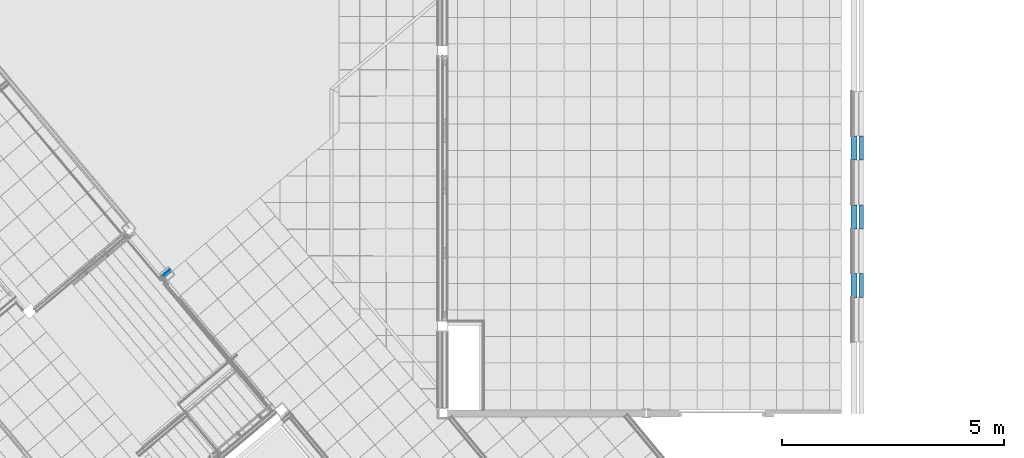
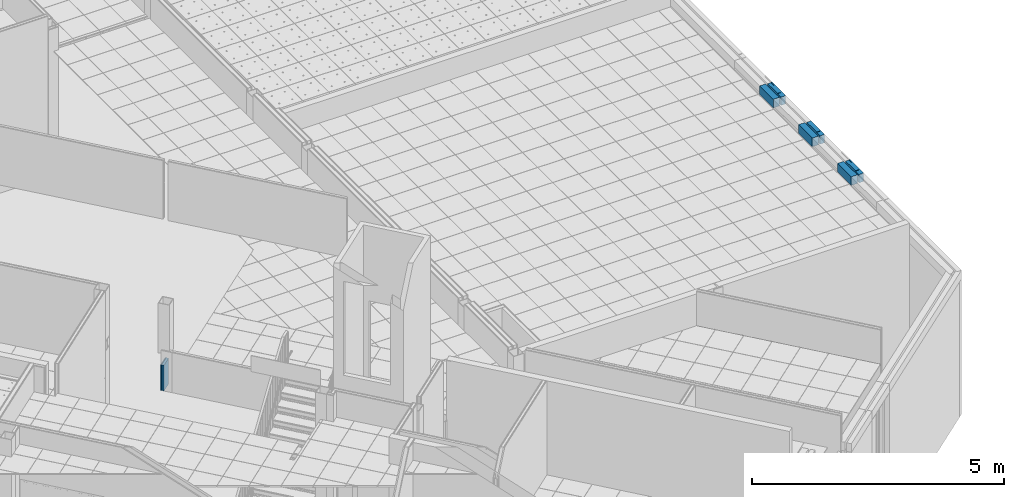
# One storey, part 114 of 338: 9 building element parts, 4 elements without a shape of their own.
"""IFC2X3 building model written with IfcOpenShell, lengths in millimetres."""

import ifcopenshell
import ifcopenshell.guid

model = None  # the IFC model being written
_history = None  # IfcOwnerHistory: only IFC2X3 demands one
_inside = {}  # id of a spatial element -> (the spatial element, [elements in it])
_under = {}  # id of a project, library or spatial element -> (it, [spatial elements below it])
_declared = {}  # id of a project -> (the project, [libraries it declares])
_typed = {}  # id of a type object -> (the type object, [elements of that type])
_made_of = {}  # id of a material, layer set ... -> (it, [elements and type objects made of it])


def new_model(schema):
    """Start an empty IFC model of exactly this schema.

    Asked for "IFC4X3", IfcOpenShell would pick the latest addendum, in which some entities
    have other attributes; the version numbers below select the first issue.
    IFC2X3 requires an IfcOwnerHistory on every rooted entity: one is made here for all.
    """
    global model, _history
    if schema == "IFC4X3":
        model = ifcopenshell.file(schema_version=(4, 3, 0, 0))
    else:
        model = ifcopenshell.file(schema=schema)
    _inside.clear()
    _under.clear()
    _declared.clear()
    _typed.clear()
    _made_of.clear()
    _history = None
    if model.schema == "IFC2X3":
        org = make("IfcOrganization", Name="unknown")
        user = make(
            "IfcPersonAndOrganization",
            ThePerson=make("IfcPerson", FamilyName="unknown"),
            TheOrganization=org,
        )
        app = make(
            "IfcApplication",
            ApplicationDeveloper=org,
            Version="unknown",
            ApplicationFullName="unknown",
            ApplicationIdentifier="unknown",
        )
        _history = make(
            "IfcOwnerHistory",
            OwningUser=user,
            OwningApplication=app,
            ChangeAction="ADDED",
            CreationDate=0,
        )
    return model


def make(cls, **values):
    """One entity of the class cls with the attributes given. An attribute that is None is left unset."""
    return model.create_entity(
        cls, **{name: value for name, value in values.items() if value is not None}
    )


def entity(cls, *values):
    """Any entity or typed value of the class cls, its attributes in the order of the schema. None: left unset."""
    e = model.create_entity(cls)
    for i, value in enumerate(values):
        if value is not None:
            e[i] = value
    return e


def rooted(cls, **values):
    """An entity with a GlobalId (a new one), such as an element, a storey or a relation."""
    return make(cls, GlobalId=ifcopenshell.guid.new(), OwnerHistory=_history, **values)


def si_unit(unit_type, name, prefix=None):
    """IfcSIUnit, for example si_unit("LENGTHUNIT", "METRE", prefix="MILLI")."""
    return make("IfcSIUnit", UnitType=unit_type, Prefix=prefix, Name=name)


def converted_unit(unit_type, name, factor, base, dimensions=None, offset=None):
    """IfcConversionBasedUnit, such as the inch: factor (a typed value) times the base unit."""
    return make(
        "IfcConversionBasedUnit"
        if offset is None
        else "IfcConversionBasedUnitWithOffset",
        ConversionOffset=offset,
        Dimensions=None
        if dimensions is None
        else entity("IfcDimensionalExponents", *dimensions),
        UnitType=unit_type,
        Name=name,
        ConversionFactor=make(
            "IfcMeasureWithUnit", ValueComponent=factor, UnitComponent=base
        ),
    )


def derived_unit(unit_type, elements):
    """IfcDerivedUnit: a product of units, each with its exponent."""
    return make(
        "IfcDerivedUnit",
        Elements=[
            make("IfcDerivedUnitElement", Unit=unit, Exponent=power)
            for unit, power in elements
        ],
        UnitType=unit_type,
    )


def money_unit(currency):
    """IfcMonetaryUnit."""
    return make("IfcMonetaryUnit", Currency=currency)


def assignment(units):
    """IfcUnitAssignment: the units of a project."""
    return None if units is None else make("IfcUnitAssignment", Units=units)


def point(xyz):
    """IfcCartesianPoint."""
    return None if xyz is None else make("IfcCartesianPoint", Coordinates=xyz)


def direction(xyz):
    """IfcDirection."""
    return None if xyz is None else make("IfcDirection", DirectionRatios=xyz)


def frame(location, z_axis=None, x_axis=None):
    """IfcAxis2Placement3D, a coordinate frame: its origin and axes. An axis left out is left unset."""
    return make(
        "IfcAxis2Placement3D",
        Location=point(location),
        Axis=direction(z_axis),
        RefDirection=direction(x_axis),
    )


def origin_with_axes():
    """The frame at (0, 0, 0) with the z axis (0, 0, 1) and the x axis (1, 0, 0) written out."""
    return frame((0.0, 0.0, 0.0), z_axis=(0.0, 0.0, 1.0), x_axis=(1.0, 0.0, 0.0))


def place(relative_to, where):
    """IfcLocalPlacement: puts the frame where relative to a parent placement (None: the world)."""
    return make(
        "IfcLocalPlacement", PlacementRelTo=relative_to, RelativePlacement=where
    )


def context(
    kind, dimensions, precision=None, world=None, true_north=None, identifier=None
):
    """IfcGeometricRepresentationContext, for example the 3D "Model" context."""
    return make(
        "IfcGeometricRepresentationContext",
        ContextIdentifier=identifier,
        ContextType=kind,
        CoordinateSpaceDimension=dimensions,
        Precision=precision,
        WorldCoordinateSystem=world,
        TrueNorth=true_north,
    )


def subcontext(parent, identifier, kind, view, scale=None):
    """IfcGeometricRepresentationSubContext, for example "Body" below "Model"."""
    return make(
        "IfcGeometricRepresentationSubContext",
        ContextIdentifier=identifier,
        ContextType=kind,
        ParentContext=parent,
        TargetScale=scale,
        TargetView=view,
    )


def project(units=None, contexts=None):
    """IfcProject with its units and contexts."""
    return rooted(
        "IfcProject",
        Name="project",
        RepresentationContexts=contexts,
        UnitsInContext=assignment(units),
    )


def spatial(cls, under=None, at=None, **own):
    """A site, building, storey or space (cls), placed at a placement, below another one or the project."""
    s = rooted(cls, ObjectPlacement=at, **own)
    if under is not None:
        _under.setdefault(under.id(), (under, []))[1].append(s)
    return s


def faces_of(points, faces, orient=None, outer=None):
    """IfcFace entities. A face is a list of loops; a loop is a list of indices into points, from 0.

    orient and outer hold one flag for each loop. By default every Orientation is true, the
    first loop of a face is its IfcFaceOuterBound and the others are IfcFaceBound.
    """
    made = []
    for i, loops in enumerate(faces):
        bounds = []
        for j, loop in enumerate(loops):
            is_outer = j == 0 if outer is None else outer[i][j]
            bounds.append(
                make(
                    "IfcFaceOuterBound" if is_outer else "IfcFaceBound",
                    Bound=make("IfcPolyLoop", Polygon=[points[k] for k in loop]),
                    Orientation=True if orient is None else orient[i][j],
                )
            )
        made.append(make("IfcFace", Bounds=bounds))
    return made


def faceted_brep(points, faces, orient=None, outer=None, voids=None):
    """IfcFacetedBrep: a solid bounded by flat faces; with voids (closed shells), ...WithVoids."""
    shared = [point(p) for p in points]
    hull = make("IfcClosedShell", CfsFaces=faces_of(shared, faces, orient, outer))
    if voids is None:
        return make("IfcFacetedBrep", Outer=hull)
    return make(
        "IfcFacetedBrepWithVoids",
        Outer=hull,
        Voids=[
            make(cls, CfsFaces=faces_of(shared, fs, o, b)) for cls, fs, o, b in voids
        ],
    )


def shape(context_of_items, identifier, shape_type, items):
    """IfcShapeRepresentation: the items that make up one representation, for example the "Body"."""
    return make(
        "IfcShapeRepresentation",
        ContextOfItems=context_of_items,
        RepresentationIdentifier=identifier,
        RepresentationType=shape_type,
        Items=items,
    )


def material(Name=None, Category=None):
    """IfcMaterial."""
    return make("IfcMaterial", Name=Name, Category=Category)


def made_of(thing, what):
    """Note that an element or type object is made of a material, layer set ...; save() writes the relation."""
    if what is not None:
        _made_of.setdefault(what.id(), (what, []))[1].append(thing)
    return thing


def type_object(cls, material=None, **own):
    """A type object (cls), such as IfcWallType, which elements share."""
    return made_of(rooted(cls, **own), material)


def element(
    cls,
    number,
    at=None,
    inside=None,
    cuts=None,
    type_object=None,
    material=None,
    context=None,
    identifier="Body",
    shape_type=None,
    held_by="IfcProductDefinitionShape",
    body=None,
    shapes=None,
    **own,
):
    """One element of the class cls, such as IfcWall. Its Tag is "e" and its number.

    at: its placement. inside: the storey or other place that contains it. cuts: it is an
    opening in that element (IfcRelVoidsElement). A single representation is given by context,
    identifier, shape_type and body (its items); several are given by shapes. held_by: the class
    of the entity that holds the representations. save() writes the other relations.
    """
    e = rooted(cls, Tag="e%d" % number, ObjectPlacement=at, **own)
    if body is not None:
        shapes = [shape(context, identifier, shape_type, body)]
    if shapes is not None:
        e.Representation = make(held_by, Representations=shapes)
    if inside is not None:
        _inside.setdefault(inside.id(), (inside, []))[1].append(e)
    if cuts is not None:
        rooted(
            "IfcRelVoidsElement", RelatingBuildingElement=cuts, RelatedOpeningElement=e
        )
    if type_object is not None:
        _typed.setdefault(type_object.id(), (type_object, []))[1].append(e)
    return made_of(e, material)


def aggregate(whole, parts):
    """IfcRelAggregates: a whole, such as a stair, and the parts it consists of."""
    return rooted("IfcRelAggregates", RelatingObject=whole, RelatedObjects=parts)


def save(model, path):
    """Write the relations noted so far, then the file.

    IfcRelAggregates (storeys below a building ...), IfcRelContainedInSpatialStructure (elements
    in a storey), IfcRelDefinesByType, IfcRelAssociatesMaterial and IfcRelDeclares: one each for
    every whole, place, type object, material and project.
    """
    for whole, parts in _under.values():
        aggregate(whole, parts)
    for where, things in _inside.values():
        rooted(
            "IfcRelContainedInSpatialStructure",
            RelatedElements=things,
            RelatingStructure=where,
        )
    for kind, things in _typed.values():
        rooted("IfcRelDefinesByType", RelatedObjects=things, RelatingType=kind)
    for what, things in _made_of.values():
        rooted("IfcRelAssociatesMaterial", RelatedObjects=things, RelatingMaterial=what)
    for by, libraries in _declared.values():
        rooted("IfcRelDeclares", RelatingContext=by, RelatedDefinitions=libraries)
    model.write(path)


model = new_model("IFC2X3")

# Units and contexts
model_context = context("Model", 3, precision=0.01, world=origin_with_axes(), true_north=direction((0.0, 1.0)))
plan_context = context("Plan", 3, precision=0.01, world=origin_with_axes(), true_north=direction((0.0, 1.0)))
body_context = subcontext(model_context, "Body", "Model", "MODEL_VIEW")
ifc_project = project(units=[si_unit("LENGTHUNIT", "METRE", prefix="MILLI"), si_unit("AREAUNIT", "SQUARE_METRE"), si_unit("VOLUMEUNIT", "CUBIC_METRE"), converted_unit("PLANEANGLEUNIT", "DEGREE", entity("IfcPlaneAngleMeasure", 0.0174532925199), si_unit("PLANEANGLEUNIT", "RADIAN"), dimensions=[0, 0, 0, 0, 0, 0, 0]), money_unit("EUR"), converted_unit("TIMEUNIT", "Year", entity("IfcTimeMeasure", 31556926.0), si_unit("TIMEUNIT", "SECOND"), dimensions=[0, 0, 1, 0, 0, 0, 0]), si_unit("MASSUNIT", "GRAM", prefix="KILO"), si_unit("THERMODYNAMICTEMPERATUREUNIT", "DEGREE_CELSIUS"), si_unit("LUMINOUSINTENSITYUNIT", "LUMEN"), si_unit("ENERGYUNIT", "JOULE", prefix="MEGA"), derived_unit("THERMALCONDUCTANCEUNIT", [(si_unit("POWERUNIT", "WATT"), 1), (si_unit("LENGTHUNIT", "METRE"), -1), (si_unit("THERMODYNAMICTEMPERATUREUNIT", "KELVIN"), -1)]), derived_unit("SPECIFICHEATCAPACITYUNIT", [(si_unit("ENERGYUNIT", "JOULE"), 1), (si_unit("MASSUNIT", "GRAM", prefix="KILO"), -1), (si_unit("THERMODYNAMICTEMPERATUREUNIT", "KELVIN"), -1)]), derived_unit("MASSDENSITYUNIT", [(si_unit("MASSUNIT", "GRAM", prefix="KILO"), 1), (si_unit("VOLUMEUNIT", "CUBIC_METRE"), -1)])], contexts=[model_context, plan_context])

# Site, building, storey
site_placement = place(None, origin_with_axes())
site = spatial("IfcSite", under=ifc_project, at=site_placement, Name="Fortuinstraat Woensdrecht", CompositionType="ELEMENT")
building_placement = place(site_placement, origin_with_axes())
building = spatial("IfcBuilding", under=site, at=building_placement, Name="IKC Fortuna", CompositionType="ELEMENT")
storey_placement = place(building_placement, origin_with_axes())
storey = spatial("IfcBuildingStorey", under=building, at=storey_placement, Name="00 begane grond", CompositionType="ELEMENT", Elevation=0.0)

# Covering, building element parts
covering_type = type_object("IfcCoveringType", Name="41 Rollaag 280 x 210", PredefinedType="NOTDEFINED")
covering_1_placement = place(storey_placement, frame((34973.4270641, 4913.29662827, 2800.0), z_axis=(0.0, 0.0, 1.0), x_axis=(0.0, -1.0, 0.0)))
covering_1 = element("IfcCovering", 1, at=covering_1_placement, inside=storey, type_object=covering_type, Name="41_Afwerking_Rollaag", PredefinedType="NOTDEFINED")
ifc_material_1 = material(Name="Steen - Baksteen Accent Rollaag")
building_element_part_1_placement = place(covering_1_placement, origin_with_axes())
building_element_part_1 = element("IfcBuildingElementPart", 2, at=building_element_part_1_placement, material=ifc_material_1, Name="Steen - Baksteen Accent Rollaag", context=body_context, shape_type="Brep", body=[
    faceted_brep([(0.0, 40.0, 200.0), (0.0, 119.999993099, 200.0), (0.0, 119.999993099, 204.0), (0.0, 118.242633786, 208.242640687), (0.0, 113.999993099, 210.0), (0.0, 140.0, 210.0), (0.0, 140.0, 0.0), (0.0, 40.0, 0.0), (137.259204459, 40.0, 200.0), (137.259204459, 119.999993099, 200.0), (137.259204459, 119.999993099, 204.0), (137.259204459, 118.242633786, 208.242640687), (137.259204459, 113.999993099, 210.0), (137.259204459, 41.9999930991, 210.0), (137.259204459, 40.0, 210.0), (401.726290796, 40.0, 210.0), (401.726290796, 41.999993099, 210.0), (401.726290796, 113.999993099, 210.0), (540.0, 113.999993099, 210.0), (540.0, 140.0, 210.0), (540.0, 140.0, 0.0), (540.0, 40.0, 0.0), (540.0, 40.0, 200.0), (401.726290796, 40.0, 200.0), (401.726290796, 119.999993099, 200.0), (401.726290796, 119.999993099, 204.0), (401.726290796, 118.242633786, 208.242640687), (540.0, 118.242633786, 208.242640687), (540.0, 119.999993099, 204.0), (540.0, 119.999993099, 200.0)], [[[0, 1, 2, 3, 4, 5, 6, 7]], [[1, 0, 8, 9]], [[2, 1, 9, 10]], [[3, 2, 10, 11]], [[4, 3, 11, 12]], [[13, 14, 15, 16, 17, 18, 19, 5, 4, 12]], [[5, 19, 20, 6]], [[6, 20, 21, 7]], [[8, 0, 7, 21, 22, 23, 15, 14]], [[13, 12, 11, 10, 9, 8, 14]], [[17, 16, 15, 23, 24, 25, 26]], [[27, 18, 17, 26]], [[18, 27, 28, 29, 22, 21, 20, 19]], [[22, 29, 24, 23]], [[29, 28, 25, 24]], [[28, 27, 26, 25]]]),
])
ifc_material_2 = material(Name="ALG - ISOLATIE")
building_element_part_2_placement = place(covering_1_placement, origin_with_axes())
building_element_part_2 = element("IfcBuildingElementPart", 3, at=building_element_part_2_placement, material=ifc_material_2, Name="ALG - ISOLATIE", context=body_context, shape_type="Brep", body=[
    faceted_brep([(540.0, 0.0, 0.0), (540.0, -140.0, 0.0), (0.0, -140.0, 0.0), (0.0, 0.0, 0.0), (540.0, 0.0, 210.0), (540.0, -140.0, 210.0), (0.0, -140.0, 210.0), (0.0, 0.0, 210.0)], [[[0, 1, 2, 3]], [[0, 4, 5, 1]], [[1, 5, 6, 2]], [[3, 2, 6, 7]], [[4, 0, 3, 7]], [[5, 4, 7, 6]]]),
])
aggregate(covering_1, [building_element_part_1, building_element_part_2])

covering_2_placement = place(storey_placement, frame((34973.4270641, 6463.29662827, 2800.0), z_axis=(0.0, 0.0, 1.0), x_axis=(0.0, -1.0, 0.0)))
covering_2 = element("IfcCovering", 4, at=covering_2_placement, inside=storey, type_object=covering_type, Name="41_Afwerking_Rollaag", PredefinedType="NOTDEFINED")
building_element_part_3_placement = place(covering_2_placement, origin_with_axes())
building_element_part_3 = element("IfcBuildingElementPart", 5, at=building_element_part_3_placement, material=ifc_material_1, Name="Steen - Baksteen Accent Rollaag", context=body_context, shape_type="Brep", body=[
    faceted_brep([(0.0, 40.0, 200.0), (0.0, 119.999993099, 200.0), (0.0, 119.999993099, 204.0), (0.0, 118.242633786, 208.242640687), (0.0, 113.999993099, 210.0), (0.0, 140.0, 210.0), (0.0, 140.0, 0.0), (0.0, 40.0, 0.0), (137.259204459, 40.0, 200.0), (137.259204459, 119.999993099, 200.0), (137.259204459, 119.999993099, 204.0), (137.259204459, 118.242633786, 208.242640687), (137.259204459, 113.999993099, 210.0), (137.259204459, 41.9999930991, 210.0), (137.259204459, 40.0, 210.0), (401.726290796, 40.0, 210.0), (401.726290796, 41.9999930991, 210.0), (401.726290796, 113.999993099, 210.0), (540.0, 113.999993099, 210.0), (540.0, 140.0, 210.0), (540.0, 140.0, 0.0), (540.0, 40.0, 0.0), (540.0, 40.0, 200.0), (401.726290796, 40.0, 200.0), (401.726290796, 119.999993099, 200.0), (401.726290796, 119.999993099, 204.0), (401.726290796, 118.242633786, 208.242640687), (540.0, 118.242633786, 208.242640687), (540.0, 119.999993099, 204.0), (540.0, 119.999993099, 200.0)], [[[0, 1, 2, 3, 4, 5, 6, 7]], [[1, 0, 8, 9]], [[2, 1, 9, 10]], [[3, 2, 10, 11]], [[4, 3, 11, 12]], [[13, 14, 15, 16, 17, 18, 19, 5, 4, 12]], [[5, 19, 20, 6]], [[6, 20, 21, 7]], [[8, 0, 7, 21, 22, 23, 15, 14]], [[13, 12, 11, 10, 9, 8, 14]], [[17, 16, 15, 23, 24, 25, 26]], [[27, 18, 17, 26]], [[18, 27, 28, 29, 22, 21, 20, 19]], [[22, 29, 24, 23]], [[29, 28, 25, 24]], [[28, 27, 26, 25]]]),
])
building_element_part_4_placement = place(covering_2_placement, origin_with_axes())
building_element_part_4 = element("IfcBuildingElementPart", 6, at=building_element_part_4_placement, material=ifc_material_2, Name="ALG - ISOLATIE", context=body_context, shape_type="Brep", body=[
    faceted_brep([(540.0, 0.0, 0.0), (540.0, -140.0, 0.0), (0.0, -140.0, 0.0), (0.0, 0.0, 0.0), (540.0, 0.0, 210.0), (540.0, -140.0, 210.0), (0.0, -140.0, 210.0), (0.0, 0.0, 210.0)], [[[0, 1, 2, 3]], [[0, 4, 5, 1]], [[1, 5, 6, 2]], [[3, 2, 6, 7]], [[4, 0, 3, 7]], [[5, 4, 7, 6]]]),
])
aggregate(covering_2, [building_element_part_3, building_element_part_4])

covering_3_placement = place(storey_placement, frame((34973.4270641, 8013.29662827, 2800.0), z_axis=(0.0, 0.0, 1.0), x_axis=(0.0, -1.0, 0.0)))
covering_3 = element("IfcCovering", 7, at=covering_3_placement, inside=storey, type_object=covering_type, Name="41_Afwerking_Rollaag", PredefinedType="NOTDEFINED")
building_element_part_5_placement = place(covering_3_placement, origin_with_axes())
building_element_part_5 = element("IfcBuildingElementPart", 8, at=building_element_part_5_placement, material=ifc_material_1, Name="Steen - Baksteen Accent Rollaag", context=body_context, shape_type="Brep", body=[
    faceted_brep([(0.0, 40.0, 200.0), (0.0, 119.999993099, 200.0), (0.0, 119.999993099, 204.0), (0.0, 118.242633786, 208.242640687), (0.0, 113.999993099, 210.0), (0.0, 140.0, 210.0), (0.0, 140.0, 0.0), (0.0, 40.0, 0.0), (137.726290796, 40.0, 200.0), (137.726290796, 119.999993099, 200.0), (137.726290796, 119.999993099, 204.0), (137.726290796, 118.242633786, 208.242640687), (137.726290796, 113.999993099, 210.0), (137.726290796, 41.9999930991, 210.0), (137.726290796, 40.0, 210.0), (401.726290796, 40.0, 210.0), (401.726290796, 41.9999930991, 210.0), (401.726290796, 113.999993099, 210.0), (540.0, 113.999993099, 210.0), (540.0, 140.0, 210.0), (540.0, 140.0, 0.0), (540.0, 40.0, 0.0), (540.0, 40.0, 200.0), (401.726290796, 40.0, 200.0), (401.726290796, 119.999993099, 200.0), (401.726290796, 119.999993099, 204.0), (401.726290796, 118.242633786, 208.242640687), (540.0, 118.242633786, 208.242640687), (540.0, 119.999993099, 204.0), (540.0, 119.999993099, 200.0)], [[[0, 1, 2, 3, 4, 5, 6, 7]], [[1, 0, 8, 9]], [[2, 1, 9, 10]], [[3, 2, 10, 11]], [[4, 3, 11, 12]], [[13, 14, 15, 16, 17, 18, 19, 5, 4, 12]], [[5, 19, 20, 6]], [[6, 20, 21, 7]], [[8, 0, 7, 21, 22, 23, 15, 14]], [[13, 12, 11, 10, 9, 8, 14]], [[17, 16, 15, 23, 24, 25, 26]], [[27, 18, 17, 26]], [[18, 27, 28, 29, 22, 21, 20, 19]], [[22, 29, 24, 23]], [[29, 28, 25, 24]], [[28, 27, 26, 25]]]),
])
building_element_part_6_placement = place(covering_3_placement, origin_with_axes())
building_element_part_6 = element("IfcBuildingElementPart", 9, at=building_element_part_6_placement, material=ifc_material_2, Name="ALG - ISOLATIE", context=body_context, shape_type="Brep", body=[
    faceted_brep([(540.0, 0.0, 0.0), (540.0, -140.0, 0.0), (0.0, -140.0, 0.0), (0.0, 0.0, 0.0), (540.0, 0.0, 210.0), (540.0, -140.0, 210.0), (0.0, -140.0, 210.0), (0.0, 0.0, 210.0)], [[[0, 1, 2, 3]], [[0, 4, 5, 1]], [[1, 5, 6, 2]], [[3, 2, 6, 7]], [[4, 0, 3, 7]], [[5, 4, 7, 6]]]),
])
aggregate(covering_3, [building_element_part_5, building_element_part_6])

# Wall, building element parts
wall_type = type_object("IfcWallType", Name="MS75 50.2A 75", PredefinedType="NOTDEFINED")
wall_placement = place(storey_placement, frame((19250.1396534, 4843.80456169, 3000.0), z_axis=(0.0, 0.0, 1.0), x_axis=(0.766044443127, 0.642787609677, 0.0)))
wall = element("IfcWall", 10, at=wall_placement, inside=storey, type_object=wall_type, Name="22_Wand_koof")
ifc_material_3 = material(Name="Gipsplaat")
building_element_part_7_placement = place(wall_placement, origin_with_axes())
building_element_part_7 = element("IfcBuildingElementPart", 11, at=building_element_part_7_placement, material=ifc_material_3, Name="Gipsplaat", context=body_context, shape_type="Brep", body=[
    faceted_brep([(0.0, 0.0, 624.0), (0.0, -12.5, 624.0), (265.0074106, -12.5, 624.0), (265.0074106, 0.0, 624.0), (0.0, 0.0, 0.0), (0.0, -12.5, 0.0), (265.0074106, -12.5, 0.0), (265.0074106, 0.0, 0.0)], [[[0, 1, 2, 3]], [[4, 5, 1, 0]], [[1, 5, 6, 2]], [[7, 3, 2, 6]], [[4, 0, 3, 7]], [[5, 4, 7, 6]]]),
])
building_element_part_8_placement = place(wall_placement, origin_with_axes())
building_element_part_8 = element("IfcBuildingElementPart", 12, at=building_element_part_8_placement, material=ifc_material_3, Name="Gipsplaat", context=body_context, shape_type="Brep", body=[
    faceted_brep([(0.0, -12.5, 624.0), (0.0, -25.0, 624.0), (265.0074106, -25.0, 624.0), (265.0074106, -12.5, 624.0), (0.0, -12.5, 0.0), (0.0, -25.0, 0.0), (265.0074106, -25.0, 0.0), (265.0074106, -12.5, 0.0)], [[[0, 1, 2, 3]], [[4, 5, 1, 0]], [[1, 5, 6, 2]], [[7, 3, 2, 6]], [[4, 0, 3, 7]], [[5, 4, 7, 6]]]),
])
ifc_material_4 = material(Name="Isolatie - Steenwol LSW")
building_element_part_9_placement = place(wall_placement, origin_with_axes())
building_element_part_9 = element("IfcBuildingElementPart", 13, at=building_element_part_9_placement, material=ifc_material_4, Name="Isolatie - Steenwol LSW", context=body_context, shape_type="Brep", body=[
    faceted_brep([(0.0, -25.0, 624.0), (0.0, -75.0, 624.0), (265.0074106, -75.0, 624.0), (265.0074106, -25.0, 624.0), (0.0, -25.0, 0.0), (0.0, -75.0, 0.0), (265.0074106, -75.0, 0.0), (265.0074106, -25.0, 0.0)], [[[0, 1, 2, 3]], [[4, 5, 1, 0]], [[1, 5, 6, 2]], [[7, 3, 2, 6]], [[4, 0, 3, 7]], [[5, 4, 7, 6]]]),
])
aggregate(wall, [building_element_part_7, building_element_part_8, building_element_part_9])

save(model, "model.ifc")
